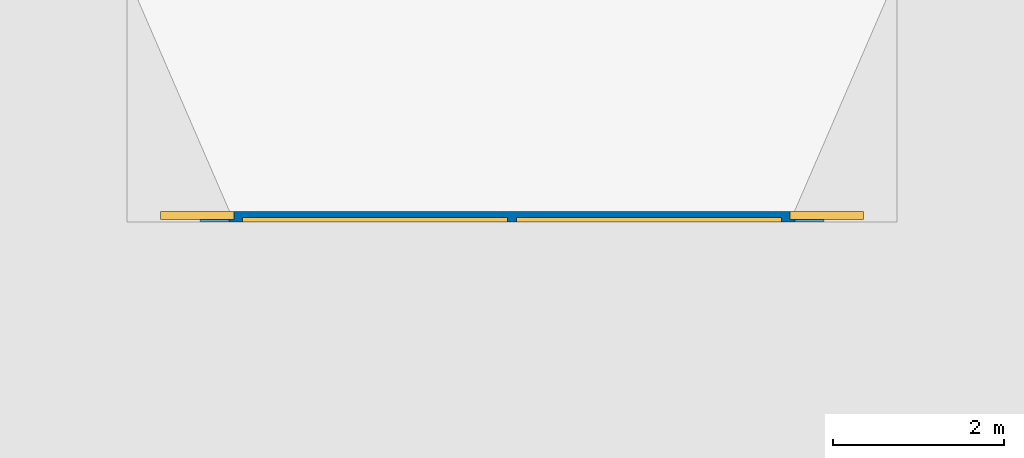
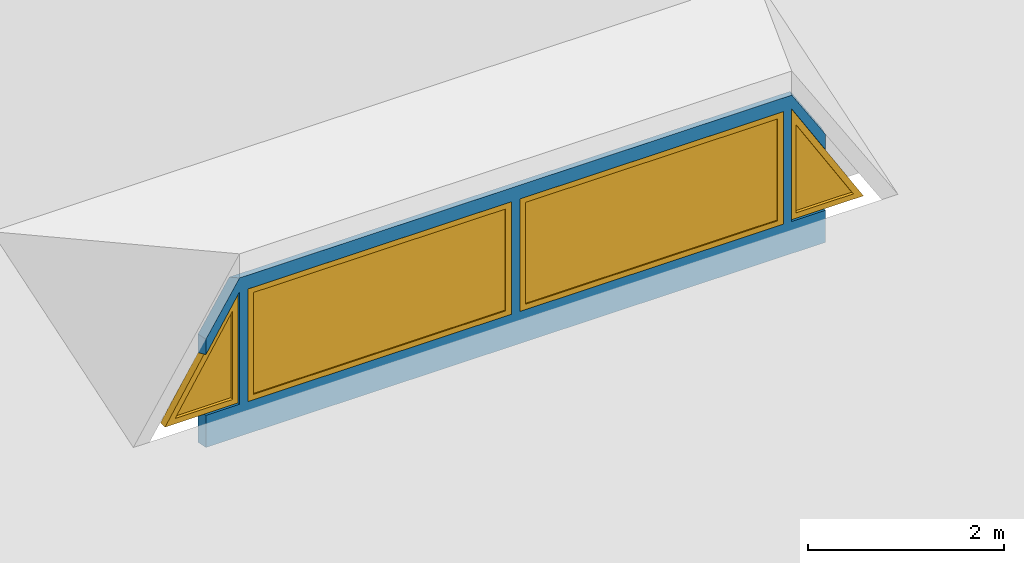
# One storey, part 3 of 7: 4 windows, 1 wall, 4 openings.
"""IFC2X3 building model written with IfcOpenShell, lengths in millimetres."""

from ifc_helpers import new_model, entity, si_unit, converted_unit, derived_unit, money_unit, direction, frame, origin_with_axes, place, context, subcontext, project, spatial, open_shell, faceted_brep, surface_model, source, transform, mapped, material, type_object, element, fill, save


model = new_model("IFC2X3")

# Units and contexts
model_context = context("Model", 3, precision=0.01, world=origin_with_axes(), true_north=direction((0.0, 1.0)))
body_context = subcontext(model_context, "Body", "Model", "MODEL_VIEW")
ifc_project = project(units=[si_unit("LENGTHUNIT", "METRE", prefix="MILLI"), si_unit("AREAUNIT", "SQUARE_METRE"), si_unit("VOLUMEUNIT", "CUBIC_METRE"), converted_unit("PLANEANGLEUNIT", "DEGREE", entity("IfcPlaneAngleMeasure", 0.0174532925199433), si_unit("PLANEANGLEUNIT", "RADIAN"), dimensions=[0, 0, 0, 0, 0, 0, 0]), money_unit("USD"), converted_unit("TIMEUNIT", "Year", entity("IfcTimeMeasure", 31557600.0), si_unit("TIMEUNIT", "SECOND"), dimensions=[0, 0, 1, 0, 0, 0, 0]), si_unit("MASSUNIT", "GRAM", prefix="KILO"), si_unit("THERMODYNAMICTEMPERATUREUNIT", "DEGREE_CELSIUS"), si_unit("LUMINOUSINTENSITYUNIT", "LUMEN"), si_unit("ENERGYUNIT", "JOULE", prefix="MEGA"), derived_unit("THERMALCONDUCTANCEUNIT", [(si_unit("POWERUNIT", "WATT"), 1), (si_unit("LENGTHUNIT", "METRE"), -1), (si_unit("THERMODYNAMICTEMPERATUREUNIT", "KELVIN"), -1)]), derived_unit("SPECIFICHEATCAPACITYUNIT", [(si_unit("ENERGYUNIT", "JOULE"), 1), (si_unit("MASSUNIT", "GRAM", prefix="KILO"), -1), (si_unit("THERMODYNAMICTEMPERATUREUNIT", "KELVIN"), -1)]), derived_unit("MASSDENSITYUNIT", [(si_unit("MASSUNIT", "GRAM", prefix="KILO"), 1), (si_unit("VOLUMEUNIT", "CUBIC_METRE"), -1)])], contexts=[model_context])

# Site, building, storey
site_placement = place(None, origin_with_axes())
site = spatial("IfcSite", under=ifc_project, at=site_placement, Name="Site", CompositionType="ELEMENT")
building_placement = place(site_placement, origin_with_axes())
building = spatial("IfcBuilding", under=site, at=building_placement, Name="Building", CompositionType="ELEMENT")
storey_placement = place(building_placement, frame((0.0, 0.0, 5900.0), z_axis=(0.0, 0.0, 1.0), x_axis=(1.0, 0.0, 0.0)))
storey = spatial("IfcBuildingStorey", under=building, at=storey_placement, Name="TAK", CompositionType="ELEMENT", Elevation=5900.0)

# Wall, openings, windows
ifc_material = material(Name="GENERIC - STRUCTURAL")
wall_type = type_object("IfcWallType", Name="GENERIC - STRUCTURAL 120", PredefinedType="NOTDEFINED")
wall_placement = place(storey_placement, frame((15750.00000000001, 11614.62361873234, 1227.379877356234), z_axis=(0.0, 0.0, 1.0), x_axis=(1.0, 0.0, 0.0)))
wall = element("IfcWall", 1, at=wall_placement, inside=storey, type_object=wall_type, material=ifc_material, Name="SW - 001", context=body_context, shape_type="Brep", body=[
    faceted_brep([(830.2277877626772, 119.9999999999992, 399.9999999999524), (1250.000000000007, 120.000000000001, 399.9999999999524), (1250.000000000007, 120.000000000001, 1799.99999999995), (830.2277877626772, 120.000000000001, 1116.64988705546), (830.2277877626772, 120.000000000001, 1348.743654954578), (1198.014844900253, 119.9999998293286, 1928.976197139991), (7801.985154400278, 120.0000000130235, 1928.97619707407), (8169.772212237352, 120.000000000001, 1348.743654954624), (8169.772212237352, 120.000000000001, 1116.649887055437), (7750.000000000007, 120.000000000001, 1799.99999999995), (7750.000000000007, 120.000000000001, 399.9999999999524), (8169.772212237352, 120.000000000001, 399.9999999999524), (8169.772212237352, 120.000000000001, 0.0), (830.2277877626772, 119.9999999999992, 0.0), (4550.478051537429, 120.000000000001, 1799.999999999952), (4550.478051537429, 120.000000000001, 399.9999999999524), (7650.47805153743, 120.000000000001, 399.9999999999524), (7650.47805153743, 120.000000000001, 1799.999999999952), (4449.521948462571, 120.000000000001, 399.9999999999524), (4449.521948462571, 120.000000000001, 1799.999999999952), (1349.52194846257, 120.000000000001, 1799.999999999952), (1349.52194846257, 120.000000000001, 399.9999999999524), (854.9166494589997, -2.281534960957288e-07, 399.9999999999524), (1250.000000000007, 1.619682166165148e-08, 399.9999999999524), (1250.000000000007, 1.619682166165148e-08, 1799.99999999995), (854.9166494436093, -3.51489504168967e-07, 1156.841057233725), (854.9166494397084, -3.827622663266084e-07, 1348.74365483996), (1249.99999961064, -3.664126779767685e-07, 1972.039695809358), (7749.999999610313, -3.664126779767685e-07, 1972.039695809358), (8145.083350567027, 3.805489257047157e-08, 1348.743654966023), (8145.083350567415, 3.494449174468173e-08, 1156.841057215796), (7750.000000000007, -3.827622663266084e-07, 1799.99999999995), (7750.000000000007, -3.827622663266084e-07, 399.9999999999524), (8145.083350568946, 2.2678747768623e-08, 399.9999999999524), (8145.083350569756, 1.619682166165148e-08, 0.0), (854.9166494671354, -1.629683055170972e-07, 0.0), (4550.478051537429, 3.805489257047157e-08, 399.9999999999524), (4550.478051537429, 3.805489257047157e-08, 1799.999999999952), (7650.47805153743, 3.805489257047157e-08, 399.9999999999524), (7650.47805153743, 3.805489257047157e-08, 1799.999999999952), (4449.521948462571, -3.827622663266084e-07, 399.9999999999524), (4449.521948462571, -3.827622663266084e-07, 1799.999999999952), (1349.52194846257, -3.827622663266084e-07, 1799.999999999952), (1349.52194846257, -3.827622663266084e-07, 399.9999999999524)], [[[0, 1, 2, 3, 4, 5, 6, 7, 8, 9, 10, 11, 12, 13], [14, 15, 16, 17], [18, 19, 20, 21]], [[1, 0, 22, 23]], [[2, 1, 23, 24]], [[3, 2, 24, 25]], [[3, 25, 26, 4]], [[26, 27, 5, 4]], [[27, 28, 6, 5]], [[7, 6, 28, 29]], [[7, 29, 30, 8]], [[30, 31, 9, 8]], [[31, 32, 10, 9]], [[10, 32, 33, 11]], [[34, 12, 11, 33]], [[12, 34, 35, 13]], [[22, 0, 13, 35]], [[36, 15, 14, 37]], [[38, 16, 15, 36]], [[39, 17, 16, 38]], [[37, 14, 17, 39]], [[18, 40, 41, 19]], [[19, 41, 42, 20]], [[20, 42, 43, 21]], [[21, 43, 40, 18]], [[23, 22, 35, 34, 33, 32, 31, 30, 29, 28, 27, 26, 25, 24], [38, 36, 37, 39], [42, 41, 40, 43]]]),
])
opening_1_placement = place(wall_placement, frame((6100.47805153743, 0.0, 399.9999999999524), z_axis=(0.0, 0.0, 1.0), x_axis=(1.0, 0.0, 0.0)))
opening_1 = element("IfcOpeningElement", 2, at=opening_1_placement, cuts=wall, Name="WD - 001", context=body_context, shape_type="Brep", body=[
    faceted_brep([(1550.000000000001, 120.9999999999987, 1400.0), (1550.000000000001, 120.9999999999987, 0.0), (-1550.000000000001, 121.0000000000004, 0.0), (-1550.000000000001, 121.0000000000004, 1400.0), (1550.000000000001, -1.000000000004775, 1400.0), (1550.000000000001, -1.000000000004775, 0.0), (-1550.000000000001, -1.000000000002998, 0.0), (-1550.000000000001, -1.000000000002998, 1400.0)], [[[0, 1, 2, 3]], [[4, 5, 1, 0]], [[5, 6, 2, 1]], [[6, 7, 3, 2]], [[7, 4, 0, 3]], [[6, 5, 4, 7]]]),
])
opening_2_placement = place(wall_placement, frame((8180.000000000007, 0.0, 399.9999999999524), z_axis=(0.0, 0.0, 1.0), x_axis=(1.0, 0.0, 0.0)))
opening_2 = element("IfcOpeningElement", 3, at=opening_2_placement, cuts=wall, Name="WD - 001", context=body_context, shape_type="Brep", body=[
    faceted_brep([(-429.9999999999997, -0.9999999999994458, 1399.999999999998), (-429.9999999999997, -0.9999999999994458, 0.0), (429.9999999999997, -0.9999999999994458, 0.0), (-429.9999999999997, 120.9999999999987, 1399.999999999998), (-429.9999999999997, 120.9999999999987, 0.0), (429.9999999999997, 120.9999999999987, 0.0)], [[[0, 1, 2]], [[3, 4, 1, 0]], [[4, 5, 2, 1]], [[5, 3, 0, 2]], [[5, 4, 3]]]),
])
opening_3_placement = place(wall_placement, frame((2899.521948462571, 0.0, 399.9999999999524), z_axis=(0.0, 0.0, 1.0), x_axis=(1.0, 0.0, 0.0)))
opening_3 = element("IfcOpeningElement", 4, at=opening_3_placement, cuts=wall, Name="WD - 001", context=body_context, shape_type="Brep", body=[
    faceted_brep([(1550.000000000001, 121.0000000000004, 1400.0), (1550.000000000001, 121.0000000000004, 0.0), (-1550.000000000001, 121.0000000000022, 0.0), (-1550.000000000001, 121.0000000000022, 1400.0), (1550.000000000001, -1.000000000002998, 1400.0), (1550.000000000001, -1.000000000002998, 0.0), (-1550.000000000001, -1.000000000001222, 0.0), (-1550.000000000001, -1.000000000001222, 1400.0)], [[[0, 1, 2, 3]], [[4, 5, 1, 0]], [[5, 6, 2, 1]], [[6, 7, 3, 2]], [[7, 4, 0, 3]], [[6, 5, 4, 7]]]),
])
opening_4_placement = place(wall_placement, frame((820.0000000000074, 0.0, 399.9999999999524), z_axis=(0.0, 0.0, 1.0), x_axis=(1.0, 0.0, 0.0)))
opening_4 = element("IfcOpeningElement", 5, at=opening_4_placement, cuts=wall, Name="WD - 001", context=body_context, shape_type="Brep", body=[
    faceted_brep([(429.9999999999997, -0.9999999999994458, 1399.999999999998), (-429.9999999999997, -0.9999999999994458, 0.0), (429.9999999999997, -0.9999999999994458, 0.0), (429.9999999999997, 120.9999999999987, 1399.999999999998), (-429.9999999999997, 120.9999999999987, 0.0), (429.9999999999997, 120.9999999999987, 0.0)], [[[0, 1, 2]], [[3, 4, 1, 0]], [[4, 5, 2, 1]], [[5, 3, 0, 2]], [[5, 4, 3]]]),
])
window_style_1 = type_object("IfcWindowStyle", Name="Vindu variabelt", ConstructionType="NOTDEFINED", OperationType="SINGLE_PANEL", ParameterTakesPrecedence=False, Sizeable=False)
shared_shape = source(origin_with_axes(), body_context, "Body", "SurfaceModel", [
    faceted_brep([(-1484.000000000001, -50.00000000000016, 1333.999999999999), (-1484.000000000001, 0.0, 1333.999999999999), (-1550.000000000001, 0.0, 1333.999999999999), (-1550.000000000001, -50.00000000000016, 1333.999999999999), (-1484.000000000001, -50.00000000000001, 66.0), (-1484.000000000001, 0.0, 66.0), (-1550.000000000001, 0.0, 66.0), (-1550.000000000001, -50.00000000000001, 66.0)], [[[0, 1, 2, 3]], [[4, 5, 1, 0]], [[1, 5, 6, 2]], [[3, 2, 6, 7]], [[0, 3, 7, 4]], [[7, 6, 5, 4]]]),
    faceted_brep([(1484.000000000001, -50.00000000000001, 66.0), (1484.000000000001, 0.0, 66.0), (1550.000000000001, 0.0, 66.0), (1550.000000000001, -50.00000000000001, 66.0), (1484.000000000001, -50.00000000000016, 1333.999999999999), (1484.000000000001, 0.0, 1333.999999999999), (1550.000000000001, 0.0, 1333.999999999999), (1550.000000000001, -50.00000000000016, 1333.999999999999)], [[[0, 1, 2, 3]], [[4, 5, 1, 0]], [[1, 5, 6, 2]], [[3, 2, 6, 7]], [[0, 3, 7, 4]], [[7, 6, 5, 4]]]),
    faceted_brep([(-1484.000000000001, -50.00000000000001, 66.0), (-1484.000000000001, 0.0, 66.0), (-1550.000000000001, 0.0, 66.0), (-1550.000000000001, -50.00000000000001, 66.0), (1484.000000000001, -50.00000000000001, 66.0), (1484.000000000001, 0.0, 66.0), (1550.000000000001, 0.0, 66.0), (1550.000000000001, 0.0, 0.0), (-1550.000000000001, 0.0, 0.0), (-1550.000000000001, -50.0, 0.0), (1550.000000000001, -50.0, 0.0), (1550.000000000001, -50.00000000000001, 66.0)], [[[0, 1, 2, 3]], [[4, 5, 1, 0]], [[1, 5, 6, 7, 8, 2]], [[3, 2, 8, 9]], [[0, 3, 9, 10, 11, 4]], [[11, 6, 5, 4]], [[10, 7, 6, 11]], [[9, 8, 7, 10]]]),
    faceted_brep([(1484.000000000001, -50.00000000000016, 1333.999999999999), (1484.000000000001, 0.0, 1333.999999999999), (1550.000000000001, 0.0, 1333.999999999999), (1550.000000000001, -50.00000000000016, 1333.999999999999), (-1484.000000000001, -50.00000000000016, 1333.999999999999), (-1484.000000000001, 0.0, 1333.999999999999), (-1550.000000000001, 0.0, 1333.999999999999), (-1550.000000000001, 0.0, 1399.999999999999), (1550.000000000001, 0.0, 1399.999999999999), (1550.000000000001, -50.00000000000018, 1399.999999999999), (-1550.000000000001, -50.00000000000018, 1399.999999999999), (-1550.000000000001, -50.00000000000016, 1333.999999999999)], [[[0, 1, 2, 3]], [[4, 5, 1, 0]], [[1, 5, 6, 7, 8, 2]], [[3, 2, 8, 9]], [[0, 3, 9, 10, 11, 4]], [[11, 6, 5, 4]], [[10, 7, 6, 11]], [[9, 8, 7, 10]]]),
    surface_model("IfcShellBasedSurfaceModel", [(-1484.000000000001, -35.00000000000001, 66.0), (1484.000000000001, -35.00000000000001, 66.0), (1484.000000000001, -35.00000000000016, 1333.999999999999), (-1484.000000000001, -35.00000000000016, 1333.999999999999)], [open_shell([[[0, 1, 2, 3]]])]),
    surface_model("IfcShellBasedSurfaceModel", [(-1484.000000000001, -15.00000000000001, 66.0), (-1484.000000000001, -15.00000000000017, 1333.999999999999), (1484.000000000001, -15.00000000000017, 1333.999999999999), (1484.000000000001, -15.00000000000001, 66.0)], [open_shell([[[0, 1, 2, 3]]])]),
])
window_1_placement = place(opening_1_placement, frame((1550.000000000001, 0.0, 0.0), z_axis=(0.0, 0.0, 1.0), x_axis=(-1.0, 0.0, 0.0)))
window_1 = element("IfcWindow", 6, at=window_1_placement, inside=storey, type_object=window_style_1, Name="WD - 001", ObjectType="WINDOW", OverallHeight=1400.0, OverallWidth=3100.0, context=body_context, shape_type="MappedRepresentation", body=[
    mapped(shared_shape, transform((1550.000000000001, 0.0, 0.0))),
])
fill(opening_1, window_1)
window_2_placement = place(opening_3_placement, frame((1550.000000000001, 0.0, 0.0), z_axis=(0.0, 0.0, 1.0), x_axis=(-1.0, 0.0, 0.0)))
window_2 = element("IfcWindow", 7, at=window_2_placement, inside=storey, type_object=window_style_1, Name="WD - 001", ObjectType="WINDOW", OverallHeight=1400.0, OverallWidth=3100.0, context=body_context, shape_type="MappedRepresentation", body=[
    mapped(shared_shape, transform((1550.000000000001, 0.0, 0.0))),
])
fill(opening_3, window_2)
window_style_2 = type_object("IfcWindowStyle", Name="Vindu trekantet", ConstructionType="NOTDEFINED", OperationType="USERDEFINED", ParameterTakesPrecedence=False, Sizeable=False)
window_3_placement = place(opening_2_placement, frame((429.9999999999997, 0.0, 0.0), z_axis=(0.0, 0.0, 1.0), x_axis=(-1.0, 0.0, 0.0)))
window_3 = element("IfcWindow", 8, at=window_3_placement, inside=storey, type_object=window_style_2, Name="WD - 001", ObjectType="WINDOW", OverallHeight=1400.0, OverallWidth=860.0, context=body_context, shape_type="SurfaceModel", body=[
    faceted_brep([(859.9999999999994, -120.000000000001, 0.0), (794.0000000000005, -120.000000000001, 65.99999999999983), (794.0000000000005, -28.00000000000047, 65.99999999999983), (859.9999999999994, -28.00000000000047, 0.0), (859.9999999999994, -120.000000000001, 1399.999999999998), (794.0000000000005, -120.000000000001, 1166.463915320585), (794.0000000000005, -28.00000000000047, 1166.463915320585), (859.9999999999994, -28.00000000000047, 1399.999999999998)], [[[0, 1, 2, 3]], [[0, 4, 5, 1]], [[1, 5, 6, 2]], [[3, 2, 6, 7]], [[4, 0, 3, 7]], [[5, 4, 7, 6]]]),
    faceted_brep([(859.9999999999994, -120.000000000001, 1399.999999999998), (794.0000000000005, -120.000000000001, 1166.463915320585), (794.0000000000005, -28.00000000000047, 1166.463915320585), (859.9999999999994, -28.00000000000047, 1399.999999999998), (0.0, -120.000000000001, 0.0), (118.0007377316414, -120.000000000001, 65.99999999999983), (118.0007377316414, -28.00000000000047, 65.99999999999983), (0.0, -28.00000000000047, 0.0)], [[[0, 1, 2, 3]], [[0, 4, 5, 1]], [[1, 5, 6, 2]], [[3, 2, 6, 7]], [[4, 0, 3, 7]], [[5, 4, 7, 6]]]),
    faceted_brep([(859.9999999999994, -120.000000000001, 0.0), (0.0, -120.000000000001, 0.0), (0.0, -28.00000000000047, 0.0), (859.9999999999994, -28.00000000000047, 0.0), (794.0000000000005, -120.000000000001, 65.99999999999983), (118.0007377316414, -120.000000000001, 65.99999999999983), (118.0007377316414, -28.00000000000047, 65.99999999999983), (794.0000000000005, -28.00000000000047, 65.99999999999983)], [[[0, 1, 2, 3]], [[0, 4, 5, 1]], [[1, 5, 6, 2]], [[3, 2, 6, 7]], [[4, 0, 3, 7]], [[5, 4, 7, 6]]]),
    surface_model("IfcShellBasedSurfaceModel", [(794.0000000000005, -83.99999999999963, 65.99999999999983), (794.0000000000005, -84.0000000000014, 1166.463915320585), (118.0007377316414, -83.99999999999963, 65.99999999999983)], [open_shell([[[0, 1, 2]]])]),
    surface_model("IfcShellBasedSurfaceModel", [(794.0000000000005, -64.00000000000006, 65.99999999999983), (118.0007377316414, -64.00000000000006, 65.99999999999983), (794.0000000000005, -64.00000000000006, 1166.463915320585)], [open_shell([[[0, 1, 2]]])]),
])
fill(opening_2, window_3)
window_4_placement = place(opening_4_placement, frame((429.9999999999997, 0.0, 0.0), z_axis=(0.0, 0.0, 1.0), x_axis=(-1.0, 0.0, 0.0)))
window_4 = element("IfcWindow", 9, at=window_4_placement, inside=storey, type_object=window_style_2, Name="WD - 001", ObjectType="WINDOW", OverallHeight=1400.0, OverallWidth=860.0, context=body_context, shape_type="SurfaceModel", body=[
    faceted_brep([(859.9999999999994, -120.000000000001, 0.0), (741.999262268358, -120.000000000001, 65.99999999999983), (741.999262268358, -28.00000000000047, 65.99999999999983), (859.9999999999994, -28.00000000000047, 0.0), (0.0, -120.000000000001, 1399.999999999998), (65.99999999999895, -120.000000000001, 1166.463915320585), (65.99999999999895, -28.00000000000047, 1166.463915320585), (0.0, -28.00000000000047, 1399.999999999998)], [[[0, 1, 2, 3]], [[0, 4, 5, 1]], [[1, 5, 6, 2]], [[3, 2, 6, 7]], [[4, 0, 3, 7]], [[5, 4, 7, 6]]]),
    faceted_brep([(0.0, -120.000000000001, 1399.999999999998), (65.99999999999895, -120.000000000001, 1166.463915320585), (65.99999999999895, -28.00000000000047, 1166.463915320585), (0.0, -28.00000000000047, 1399.999999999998), (0.0, -120.000000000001, 0.0), (65.99999999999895, -120.000000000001, 65.99999999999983), (65.99999999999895, -28.00000000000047, 65.99999999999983), (0.0, -28.00000000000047, 0.0)], [[[0, 1, 2, 3]], [[0, 4, 5, 1]], [[1, 5, 6, 2]], [[3, 2, 6, 7]], [[4, 0, 3, 7]], [[5, 4, 7, 6]]]),
    faceted_brep([(859.9999999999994, -120.000000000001, 0.0), (0.0, -120.000000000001, 0.0), (0.0, -28.00000000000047, 0.0), (859.9999999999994, -28.00000000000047, 0.0), (741.999262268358, -120.000000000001, 65.99999999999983), (65.99999999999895, -120.000000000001, 65.99999999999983), (65.99999999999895, -28.00000000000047, 65.99999999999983), (741.999262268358, -28.00000000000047, 65.99999999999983)], [[[0, 1, 2, 3]], [[0, 4, 5, 1]], [[1, 5, 6, 2]], [[3, 2, 6, 7]], [[4, 0, 3, 7]], [[5, 4, 7, 6]]]),
    surface_model("IfcShellBasedSurfaceModel", [(741.999262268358, -83.99999999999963, 65.99999999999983), (65.99999999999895, -84.0000000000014, 1166.463915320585), (65.99999999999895, -83.99999999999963, 65.99999999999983)], [open_shell([[[0, 1, 2]]])]),
    surface_model("IfcShellBasedSurfaceModel", [(741.999262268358, -64.00000000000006, 65.99999999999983), (65.99999999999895, -64.00000000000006, 65.99999999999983), (65.99999999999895, -64.00000000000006, 1166.463915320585)], [open_shell([[[0, 1, 2]]])]),
])
fill(opening_4, window_4)

save(model, "model.ifc")
